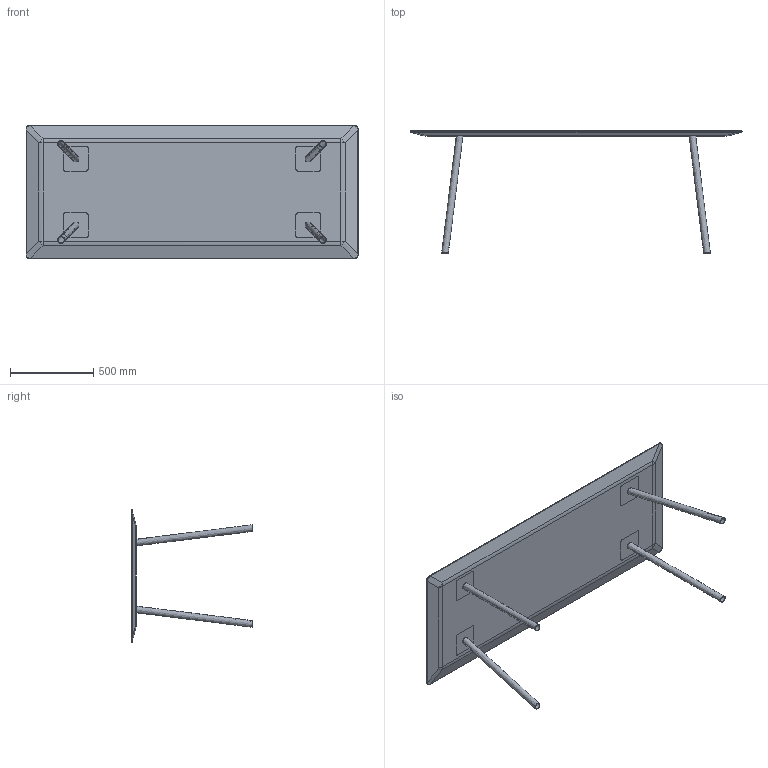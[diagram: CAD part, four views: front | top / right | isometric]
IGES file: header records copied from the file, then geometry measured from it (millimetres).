
Start section: SolidWorks IGES file using NURBS representation for surfaces
Global section: file name: W:\01-VICCARBE\PRODUCTOS\48-MAARTEN MESA\04-MODELADOS (PLANOS)\2-WEB\Piezas\IGS\VICCARBE_Maarten_200x80.IGS; native system: SolidWorks 2013; preprocessor: SolidWorks 2013; author: Usuario; date: 140904.103131; units: millimetre
Bounding box: 2000 x 734 x 800 mm (x, y, z)
Surface area: 4132992.5 mm2 (no closed solid volume)
Topology: 0 solids, 0 shells, 110 faces, 512 edges, 496 vertices
Faces by surface type: bspline 110
